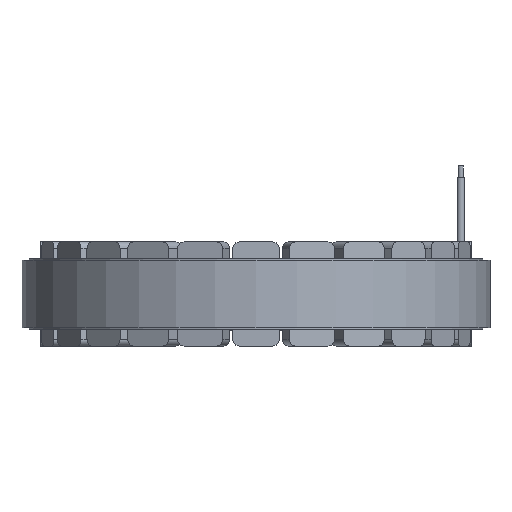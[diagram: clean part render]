
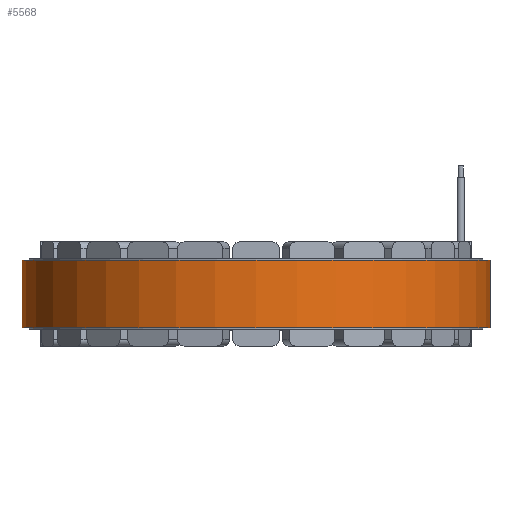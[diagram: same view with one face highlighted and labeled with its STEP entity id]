
A CAD part, front view. The second image highlights one B-rep face of the part: STEP entity #5568.
In plain terms, the highlighted cylindrical face has radius 80 mm (diameter 160 mm), a full revolution.
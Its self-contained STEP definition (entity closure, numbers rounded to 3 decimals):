
#277 = CARTESIAN_POINT ( 'NONE',  ( -80., 0., 0.5 ) ) ;
#2469 = DIRECTION ( 'NONE',  ( 1., 0., 0. ) ) ;
#3431 = EDGE_LOOP ( 'NONE', ( #7181 ) ) ;
#4262 = CIRCLE ( 'NONE', #4975, 80. ) ;
#4569 = DIRECTION ( 'NONE',  ( 0., 0., -1. ) ) ;
#4975 = AXIS2_PLACEMENT_3D ( 'NONE', #12428, #5445, #2469 ) ;
#5014 = DIRECTION ( 'NONE',  ( -1., 0., 0. ) ) ;
#5445 = DIRECTION ( 'NONE',  ( 0., 0., 1. ) ) ;
#5568 = ADVANCED_FACE ( 'NONE', ( #17996, #19726 ), #14956, .T. ) ;
#6640 = CARTESIAN_POINT ( 'NONE',  ( 0., 0., 24. ) ) ;
#7181 = ORIENTED_EDGE ( 'NONE', *, *, #11968, .F. ) ;
#8604 = ORIENTED_EDGE ( 'NONE', *, *, #14824, .F. ) ;
#10256 = CARTESIAN_POINT ( 'NONE',  ( 80., 0., 23.5 ) ) ;
#10681 = VERTEX_POINT ( 'NONE', #277 ) ;
#11523 = EDGE_LOOP ( 'NONE', ( #8604 ) ) ;
#11828 = AXIS2_PLACEMENT_3D ( 'NONE', #13048, #14692, #17948 ) ;
#11885 = VERTEX_POINT ( 'NONE', #10256 ) ;
#11968 = EDGE_CURVE ( 'NONE', #10681, #10681, #21222, .T. ) ;
#12428 = CARTESIAN_POINT ( 'NONE',  ( 0., 0., 23.5 ) ) ;
#13048 = CARTESIAN_POINT ( 'NONE',  ( 0., 0., 0.5 ) ) ;
#14692 = DIRECTION ( 'NONE',  ( 0., 0., -1. ) ) ;
#14824 = EDGE_CURVE ( 'NONE', #11885, #11885, #4262, .T. ) ;
#14956 = CYLINDRICAL_SURFACE ( 'NONE', #16149, 80. ) ;
#16149 = AXIS2_PLACEMENT_3D ( 'NONE', #6640, #4569, #5014 ) ;
#17948 = DIRECTION ( 'NONE',  ( -1., 0., 0. ) ) ;
#17996 = FACE_OUTER_BOUND ( 'NONE', #11523, .T. ) ;
#19726 = FACE_OUTER_BOUND ( 'NONE', #3431, .T. ) ;
#21222 = CIRCLE ( 'NONE', #11828, 80. ) ;
